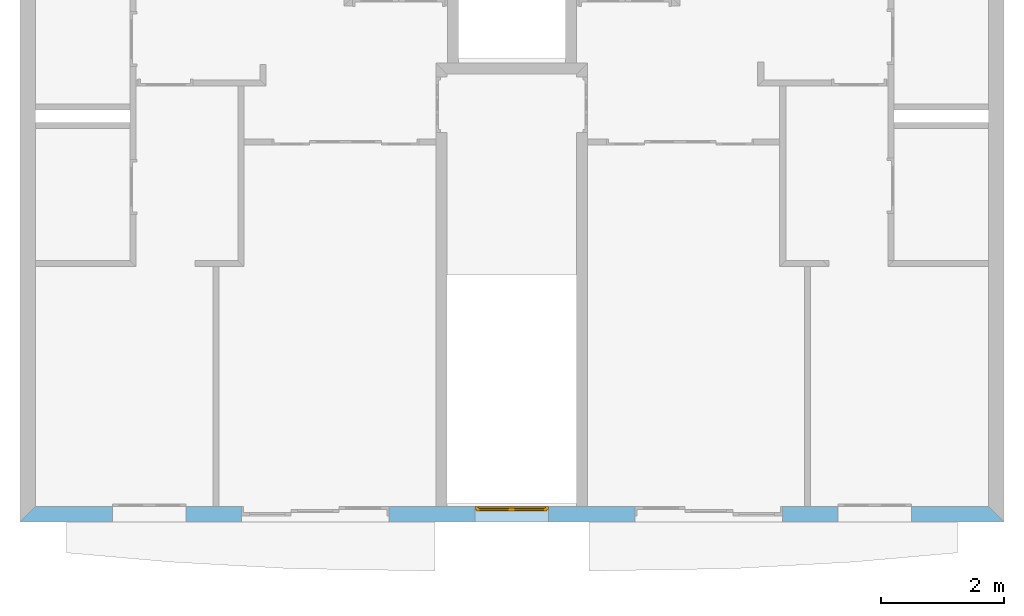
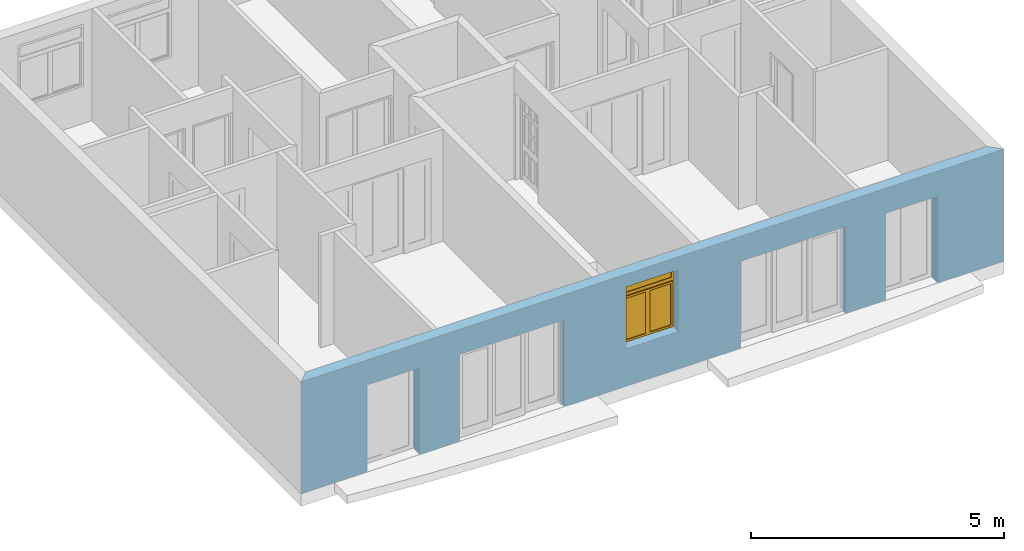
# One storey, part 3 of 12: 1 window, 5 openings, plus 1 element that does not belong to this part.
"""IFC2X3 building model written with IfcOpenShell, lengths in metres."""

from ifc_helpers import new_model, entity, si_unit, converted_unit, direction, frame, frame_2d, origin_with_axes, place, context, project, spatial, polyline, rectangle, outline, extrude, faceted_brep, source, transform, mapped, material, layer, layer_set, layer_usage, type_object, element, fill, save


model = new_model("IFC2X3")

# Units and contexts
context_of_model = context(None, 3, precision=1e-05, world=origin_with_axes(), true_north=direction((6.123234e-17, 1.0)))
plan_context = context("Plan", 3, precision=1e-05, world=origin_with_axes(), true_north=direction((6.123234e-17, 1.0)))
model_context = context("Model", 3, precision=1e-05, world=origin_with_axes(), true_north=direction((6.123234e-17, 1.0)))
ifc_project = project(units=[si_unit("LENGTHUNIT", "METRE"), si_unit("AREAUNIT", "SQUARE_METRE"), si_unit("VOLUMEUNIT", "CUBIC_METRE"), converted_unit("PLANEANGLEUNIT", "DEGREE", entity("IfcPlaneAngleMeasure", 0.017453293), si_unit("PLANEANGLEUNIT", "RADIAN"), dimensions=[0, 0, 0, 0, 0, 0, 0]), si_unit("SOLIDANGLEUNIT", "STERADIAN"), si_unit("MASSUNIT", "GRAM"), si_unit("TIMEUNIT", "SECOND"), si_unit("THERMODYNAMICTEMPERATUREUNIT", "DEGREE_CELSIUS"), si_unit("LUMINOUSINTENSITYUNIT", "LUMEN")], contexts=[context_of_model, plan_context, model_context])

# Site, building, storey
site_placement = place(None, origin_with_axes())
site = spatial("IfcSite", under=ifc_project, at=site_placement, Name="Por defecto Sitio", CompositionType="ELEMENT")
building_placement = place(site_placement, origin_with_axes())
building = spatial("IfcBuilding", under=site, at=building_placement, Name="Por defecto Edificio", CompositionType="ELEMENT")
storey_placement = place(building_placement, frame((0.0, 0.0, 10.2), z_axis=(0.0, 0.0, 1.0), x_axis=(1.0, 0.0, 0.0)))
storey = spatial("IfcBuildingStorey", under=building, at=storey_placement, Name="Tercera", CompositionType="ELEMENT", Elevation=10.2)

# Wall, openings, window
ifc_material = material(Name="Ladrillo común")
ifc_layer = layer(ifc_material, 0.25, ventilated="UNKNOWN")
ifc_layer_set = layer_set([ifc_layer], Name="Ladrillo común")
ifc_layer_usage = layer_usage(ifc_layer_set, "AXIS2", "NEGATIVE", 0.0)
wall_type = type_object("IfcWallType", Name="Ladrillo común", PredefinedType="NOTDEFINED")
wall_placement = place(storey_placement, frame((16.03417, -1.1368684e-13, 0.0), z_axis=(0.0, 0.0, 1.0), x_axis=(-1.0, 7.0902852e-15, 0.0)))
wall = element("IfcWallStandardCase", 1, at=wall_placement, inside=storey, type_object=wall_type, material=ifc_layer_usage, Name="Muro-011", context=context_of_model, shape_type="SweptSolid", body=[
    extrude(outline(polyline([(0.25, -0.25), (15.78417, -0.25), (16.03417, 0.0), (0.0, 0.0), (0.25, -0.25)])), origin_with_axes(), (0.0, 0.0, 1.0), 2.7),
])
opening_1_placement = place(wall_placement, frame((13.926599, -0.25, 0.0), z_axis=(0.0, 0.0, 1.0), x_axis=(1.0, 0.0, 0.0)))
element("IfcOpeningElement", 2, at=opening_1_placement, cuts=wall, ObjectType="Opening", context=model_context, shape_type="SweptSolid", body=[
    extrude(rectangle(XDim=1.2, YDim=2.1, at=frame_2d((-1.7763568e-15, 1.05), x_axis=(-1.0, 0.0))), frame((0.0, 0.0, 0.0), z_axis=(0.0, 1.0, 0.0), x_axis=(-1.0, 0.0, 0.0)), (0.0, 0.0, 1.0), 0.25),
])
opening_2_placement = place(wall_placement, frame((2.1075705, -0.25, 0.0), z_axis=(0.0, 0.0, 1.0), x_axis=(1.0, 0.0, 0.0)))
element("IfcOpeningElement", 3, at=opening_2_placement, cuts=wall, ObjectType="Opening", context=model_context, shape_type="SweptSolid", body=[
    extrude(rectangle(XDim=1.2, YDim=2.1, at=frame_2d((-1.7763568e-15, 1.05), x_axis=(-1.0, 0.0))), frame((0.0, 0.0, 0.0), z_axis=(0.0, 1.0, 0.0), x_axis=(-1.0, 0.0, 0.0)), (0.0, 0.0, 1.0), 0.25),
])
opening_3_placement = place(wall_placement, frame((11.225136, -0.25, 0.0), z_axis=(0.0, 0.0, 1.0), x_axis=(1.0, 0.0, 0.0)))
element("IfcOpeningElement", 4, at=opening_3_placement, cuts=wall, ObjectType="Opening", context=model_context, shape_type="SweptSolid", body=[
    extrude(rectangle(XDim=2.4, YDim=2.1, at=frame_2d((-1.7763568e-15, 1.05), x_axis=(-1.0, 0.0))), frame((0.0, 0.0, 0.0), z_axis=(0.0, 1.0, 0.0), x_axis=(-1.0, 0.0, 0.0)), (0.0, 0.0, 1.0), 0.25),
])
opening_4_placement = place(wall_placement, frame((4.8090341, -0.25, 0.0), z_axis=(0.0, 0.0, 1.0), x_axis=(1.0, 0.0, 0.0)))
element("IfcOpeningElement", 5, at=opening_4_placement, cuts=wall, ObjectType="Opening", context=model_context, shape_type="SweptSolid", body=[
    extrude(rectangle(XDim=2.4, YDim=2.1, at=frame_2d((-1.7763568e-15, 1.05), x_axis=(-1.0, 0.0))), frame((0.0, 0.0, 0.0), z_axis=(0.0, 1.0, 0.0), x_axis=(-1.0, 0.0, 0.0)), (0.0, 0.0, 1.0), 0.25),
])
opening_5_placement = place(wall_placement, frame((8.0241698, -0.25, 0.9), z_axis=(0.0, 0.0, 1.0), x_axis=(1.0, 0.0, 0.0)))
opening_5 = element("IfcOpeningElement", 6, at=opening_5_placement, cuts=wall, ObjectType="Opening", context=model_context, shape_type="SweptSolid", body=[
    extrude(rectangle(XDim=1.2, YDim=1.5, at=frame_2d((-1.7763568e-15, 0.75), x_axis=(-1.0, 0.0))), frame((0.0, 0.0, 0.0), z_axis=(0.0, 1.0, 0.0), x_axis=(-1.0, 0.0, 0.0)), (0.0, 0.0, 1.0), 0.25),
])
window_style = type_object("IfcWindowStyle", Name="V M Doble 12", ConstructionType="NOTDEFINED", OperationType="DOUBLE_PANEL_HORIZONTAL", ParameterTakesPrecedence=False, Sizeable=False)
shared_shape = source(origin_with_axes(), model_context, "Body", "Brep", [
    faceted_brep([(1.175, 0.05, 0.05), (1.175, 0.05, 1.125), (1.15, 0.05, 1.125), (1.15, 0.05, 1.2), (1.15, 0.05, 1.45), (1.2, 0.05, 1.45), (1.2, 0.05, 0.05), (1.175, 0.025, 0.05), (1.175, 0.025, 1.125), (1.15, 0.025, 1.125), (1.15, 0.025, 1.1), (1.15, 5.978551e-14, 1.1), (1.15, 5.978551e-14, 1.2), (1.15, 5.978551e-14, 1.45), (1.2, 6.0146332e-14, 1.45), (1.2, 6.0063066e-14, 0.05), (1.15, 5.9702243e-14, 0.05), (1.15, 0.025, 0.05)], [[[0, 1, 2, 3, 4, 5, 6]], [[1, 0, 7, 8]], [[9, 2, 1, 8]], [[9, 10, 11, 12, 3, 2]], [[3, 12, 13, 4]], [[4, 13, 14, 5]], [[5, 14, 15, 6]], [[7, 0, 6, 15, 16, 17]], [[10, 9, 8, 7, 17]], [[10, 17, 16, 11]], [[12, 11, 16, 15, 14, 13]]]),
    faceted_brep([(0.025, 0.05, 1.125), (0.025, 0.05, 0.05), (1.7763568e-15, 0.05, 0.05), (1.7763568e-15, 0.05, 1.45), (0.05, 0.05, 1.45), (0.05, 0.05, 1.2), (0.05, 0.05, 1.125), (0.025, 0.025, 1.125), (0.025, 0.025, 0.05), (0.05, 0.025, 0.05), (0.05, 5.2180482e-14, 0.05), (1.7763568e-15, 5.1847415e-14, 0.05), (1.7763568e-15, 5.1930682e-14, 1.45), (0.05, 5.2263749e-14, 1.45), (0.05, 5.2263749e-14, 1.2), (0.05, 0.025, 1.125), (0.05, 5.2235993e-14, 1.1), (0.05, 0.025, 1.1)], [[[0, 1, 2, 3, 4, 5, 6]], [[1, 0, 7, 8]], [[8, 9, 10, 11, 2, 1]], [[2, 11, 12, 3]], [[3, 12, 13, 4]], [[4, 13, 14, 5]], [[15, 6, 5, 14, 16, 17]], [[0, 6, 15, 7]], [[9, 8, 7, 15, 17]], [[9, 17, 16, 10]], [[11, 10, 16, 14, 13, 12]]]),
    faceted_brep([(1.15, 0.05, 1.125), (0.6, 0.05, 1.125), (0.05, 0.05, 1.125), (0.05, 0.05, 1.2), (1.15, 0.05, 1.2), (1.15, 0.025, 1.125), (0.6, 0.025, 1.125), (0.05, 0.025, 1.125), (0.05, 0.025, 1.1), (0.05, 5.2235993e-14, 1.1), (0.05, 5.2263749e-14, 1.2), (1.15, 5.978551e-14, 1.2), (1.15, 5.978551e-14, 1.1), (1.15, 0.025, 1.1)], [[[0, 1, 2, 3, 4]], [[1, 0, 5, 6]], [[7, 2, 1, 6]], [[7, 8, 9, 10, 3, 2]], [[3, 10, 11, 4]], [[5, 0, 4, 11, 12, 13]], [[8, 7, 6, 5, 13]], [[8, 13, 12, 9]], [[10, 9, 12, 11]]]),
    faceted_brep([(0.05, 0.025, 0.05), (0.025, 0.025, 0.05), (0.025, 0.05, 0.05), (1.7763568e-15, 0.05, 0.05), (1.7763568e-15, 5.1847415e-14, 0.05), (0.05, 5.2180482e-14, 0.05), (1.15, 0.025, 0.05), (1.175, 0.025, 0.05), (1.175, 0.025, 0.025), (0.6, 0.025, 0.025), (0.025, 0.025, 0.025), (0.025, 0.05, 0.025), (1.175, 0.05, 0.025), (1.175, 0.05, 0.05), (1.2, 0.05, 0.05), (1.2, 0.05, 0.0), (1.7763568e-15, 0.05, 0.0), (0.6, 0.05, 0.025), (0.0, 0.0, 0.0), (1.2, 6.0063066e-14, 0.05), (1.15, 5.9702243e-14, 0.05), (1.2, 6.0063066e-14, 0.0)], [[[0, 1, 2, 3, 4, 5]], [[1, 0, 6, 7, 8, 9, 10]], [[11, 2, 1, 10]], [[12, 13, 14, 15, 16, 3, 2, 11, 17]], [[16, 18, 4, 3]], [[19, 20, 5, 4, 18, 21]], [[6, 0, 5, 20]], [[7, 6, 20, 19, 14, 13]], [[7, 13, 12, 8]], [[12, 17, 9, 8]], [[17, 11, 10, 9]], [[14, 19, 21, 15]], [[15, 21, 18, 16]]]),
    faceted_brep([(0.05, 5.2263749e-14, 1.45), (1.7763568e-15, 5.1930682e-14, 1.45), (1.7763568e-15, 0.05, 1.45), (0.05, 0.05, 1.45), (1.15, 5.978551e-14, 1.45), (1.2, 6.0146332e-14, 1.45), (1.2, 6.0146332e-14, 1.5), (1.7763568e-15, 5.1958438e-14, 1.5), (1.7763568e-15, 0.05, 1.5), (1.2, 0.05, 1.5), (1.2, 0.05, 1.45), (1.15, 0.05, 1.45)], [[[0, 1, 2, 3]], [[0, 4, 5, 6, 7, 1]], [[1, 7, 8, 2]], [[3, 2, 8, 9, 10, 11]], [[4, 0, 3, 11]], [[5, 4, 11, 10]], [[6, 5, 10, 9]], [[7, 6, 9, 8]]]),
    faceted_brep([(0.075, 0.025, 0.075), (0.075, 0.075, 0.075), (0.075, 0.075, 1.075), (0.075, 0.025, 1.075), (0.025, 0.025, 0.075), (0.025, 0.075, 0.075), (0.025, 0.075, 1.075), (0.025, 0.025, 1.075)], [[[0, 1, 2, 3]], [[4, 5, 1, 0]], [[1, 5, 6, 2]], [[3, 2, 6, 7]], [[0, 3, 7, 4]], [[7, 6, 5, 4]]]),
    faceted_brep([(0.6, 0.025, 0.075), (0.6, 0.075, 0.075), (0.6, 0.075, 1.075), (0.6, 0.025, 1.075), (0.55, 0.025, 0.075), (0.55, 0.075, 0.075), (0.55, 0.075, 1.075), (0.55, 0.025, 1.075)], [[[0, 1, 2, 3]], [[4, 5, 1, 0]], [[1, 5, 6, 2]], [[3, 2, 6, 7]], [[0, 3, 7, 4]], [[7, 6, 5, 4]]]),
    faceted_brep([(0.6, 0.025, 0.025), (0.6, 0.075, 0.025), (0.6, 0.075, 0.075), (0.6, 0.025, 0.075), (0.025, 0.025, 0.025), (0.025, 0.075, 0.025), (0.025, 0.075, 0.075), (0.075, 0.075, 0.075), (0.55, 0.075, 0.075), (0.55, 0.025, 0.075), (0.075, 0.025, 0.075), (0.025, 0.025, 0.075)], [[[0, 1, 2, 3]], [[4, 5, 1, 0]], [[1, 5, 6, 7, 8, 2]], [[3, 2, 8, 9]], [[0, 3, 9, 10, 11, 4]], [[11, 6, 5, 4]], [[10, 7, 6, 11]], [[9, 8, 7, 10]]]),
    faceted_brep([(0.025, 0.025, 1.125), (0.025, 0.075, 1.125), (0.025, 0.075, 1.075), (0.025, 0.025, 1.075), (0.6, 0.025, 1.125), (0.6, 0.075, 1.125), (0.6, 0.075, 1.075), (0.55, 0.075, 1.075), (0.075, 0.075, 1.075), (0.075, 0.025, 1.075), (0.55, 0.025, 1.075), (0.6, 0.025, 1.075)], [[[0, 1, 2, 3]], [[4, 5, 1, 0]], [[1, 5, 6, 7, 8, 2]], [[3, 2, 8, 9]], [[0, 3, 9, 10, 11, 4]], [[11, 6, 5, 4]], [[10, 7, 6, 11]], [[9, 8, 7, 10]]]),
    faceted_brep([(0.075, 0.04, 0.075), (0.075, 0.06, 0.075), (0.55, 0.06, 0.075), (0.55, 0.04, 0.075), (0.075, 0.04, 1.075), (0.075, 0.06, 1.075), (0.55, 0.06, 1.075), (0.55, 0.04, 1.075)], [[[0, 1, 2, 3]], [[4, 5, 1, 0]], [[1, 5, 6, 2]], [[3, 2, 6, 7]], [[0, 3, 7, 4]], [[7, 6, 5, 4]]]),
    faceted_brep([(0.65, 0.025, 0.075), (0.65, 0.075, 0.075), (0.65, 0.075, 1.075), (0.65, 0.025, 1.075), (0.6, 0.025, 0.075), (0.6, 0.075, 0.075), (0.6, 0.075, 1.075), (0.6, 0.025, 1.075)], [[[0, 1, 2, 3]], [[4, 5, 1, 0]], [[1, 5, 6, 2]], [[3, 2, 6, 7]], [[0, 3, 7, 4]], [[7, 6, 5, 4]]]),
    faceted_brep([(1.175, 0.025, 0.075), (1.175, 0.075, 0.075), (1.175, 0.075, 1.075), (1.175, 0.025, 1.075), (1.125, 0.025, 0.075), (1.125, 0.075, 0.075), (1.125, 0.075, 1.075), (1.125, 0.025, 1.075)], [[[0, 1, 2, 3]], [[4, 5, 1, 0]], [[1, 5, 6, 2]], [[3, 2, 6, 7]], [[0, 3, 7, 4]], [[7, 6, 5, 4]]]),
    faceted_brep([(1.175, 0.025, 0.025), (1.175, 0.075, 0.025), (1.175, 0.075, 0.075), (1.175, 0.025, 0.075), (0.6, 0.025, 0.025), (0.6, 0.075, 0.025), (0.6, 0.075, 0.075), (0.65, 0.075, 0.075), (1.125, 0.075, 0.075), (1.125, 0.025, 0.075), (0.65, 0.025, 0.075), (0.6, 0.025, 0.075)], [[[0, 1, 2, 3]], [[4, 5, 1, 0]], [[1, 5, 6, 7, 8, 2]], [[3, 2, 8, 9]], [[0, 3, 9, 10, 11, 4]], [[11, 6, 5, 4]], [[10, 7, 6, 11]], [[9, 8, 7, 10]]]),
    faceted_brep([(0.6, 0.025, 1.125), (0.6, 0.075, 1.125), (0.6, 0.075, 1.075), (0.6, 0.025, 1.075), (1.175, 0.025, 1.125), (1.175, 0.075, 1.125), (1.175, 0.075, 1.075), (1.125, 0.075, 1.075), (0.65, 0.075, 1.075), (0.65, 0.025, 1.075), (1.125, 0.025, 1.075), (1.175, 0.025, 1.075)], [[[0, 1, 2, 3]], [[4, 5, 1, 0]], [[1, 5, 6, 7, 8, 2]], [[3, 2, 8, 9]], [[0, 3, 9, 10, 11, 4]], [[11, 6, 5, 4]], [[10, 7, 6, 11]], [[9, 8, 7, 10]]]),
    faceted_brep([(0.65, 0.04, 0.075), (0.65, 0.06, 0.075), (1.125, 0.06, 0.075), (1.125, 0.04, 0.075), (0.65, 0.04, 1.075), (0.65, 0.06, 1.075), (1.125, 0.06, 1.075), (1.125, 0.04, 1.075)], [[[0, 1, 2, 3]], [[4, 5, 1, 0]], [[1, 5, 6, 2]], [[3, 2, 6, 7]], [[0, 3, 7, 4]], [[7, 6, 5, 4]]]),
    faceted_brep([(0.05, 0.015, 1.2), (0.05, 0.035, 1.2), (1.15, 0.035, 1.2), (1.15, 0.015, 1.2), (0.05, 0.015, 1.45), (0.05, 0.035, 1.45), (1.15, 0.035, 1.45), (1.15, 0.015, 1.45)], [[[0, 1, 2, 3]], [[4, 5, 1, 0]], [[1, 5, 6, 2]], [[3, 2, 6, 7]], [[0, 3, 7, 4]], [[7, 6, 5, 4]]]),
])
window_placement = place(opening_5_placement, frame((-0.6, 0.0, 0.0), z_axis=(0.0, 0.0, 1.0), x_axis=(1.0, 0.0, 0.0)))
window = element("IfcWindow", 7, at=window_placement, inside=storey, type_object=window_style, Name="V08", OverallHeight=1.5, OverallWidth=1.2, context=model_context, shape_type="MappedRepresentation", body=[
    mapped(shared_shape, transform((0.0, 0.0, 0.0), scale=1.0)),
])
fill(opening_5, window)

save(model, "model.ifc")
